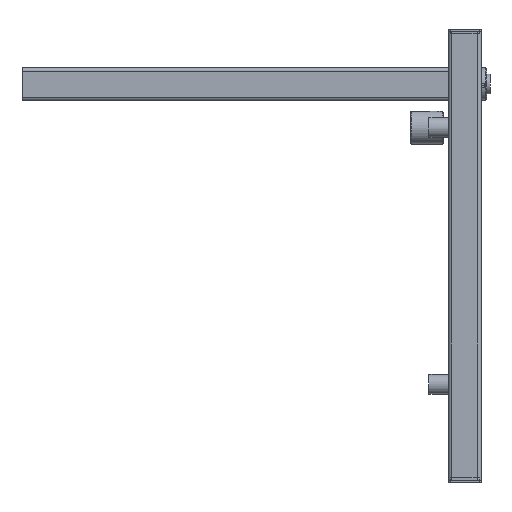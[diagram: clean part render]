
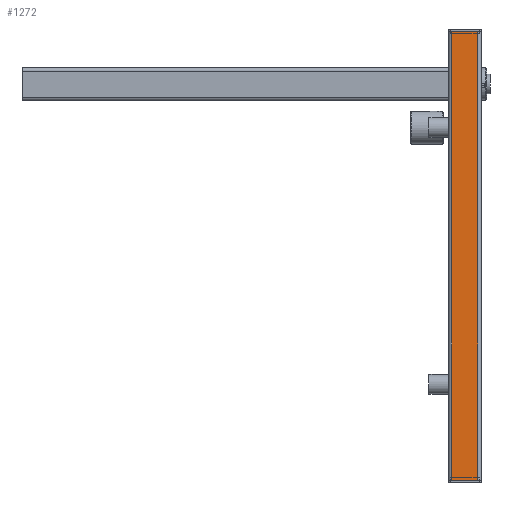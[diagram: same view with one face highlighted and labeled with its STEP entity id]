
A CAD part, left-side view. The second image highlights one B-rep face of the part: STEP entity #1272.
In plain terms, the highlighted planar face has unit normal (-1, 0, 0) as drawn and (0, 0, -1) by its records, which use the part's own axes.
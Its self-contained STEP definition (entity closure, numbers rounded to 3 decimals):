
#1272 = ADVANCED_FACE( '', ( #2558 ), #2559, .T. );
#2558 = FACE_OUTER_BOUND( '', #3865, .T. );
#2559 = PLANE( '', #3866 );
#3865 = EDGE_LOOP( '', ( #7270, #7271, #7272, #7273 ) );
#3866 = AXIS2_PLACEMENT_3D( '', #7274, #7275, #7276 );
#7270 = ORIENTED_EDGE( '', *, *, #7377, .F. );
#7271 = ORIENTED_EDGE( '', *, *, #7997, .T. );
#7272 = ORIENTED_EDGE( '', *, *, #8589, .T. );
#7273 = ORIENTED_EDGE( '', *, *, #7994, .T. );
#7274 = CARTESIAN_POINT( '', ( -15., 411., -15. ) );
#7275 = DIRECTION( '', ( 0., 0., -1. ) );
#7276 = DIRECTION( '', ( -1., 0., 0. ) );
#7377 = EDGE_CURVE( '', #8732, #8734, #8735, .T. );
#7994 = EDGE_CURVE( '', #9768, #8734, #9771, .T. );
#7997 = EDGE_CURVE( '', #8732, #9773, #9776, .F. );
#8589 = EDGE_CURVE( '', #9773, #9768, #10558, .T. );
#8732 = VERTEX_POINT( '', #10721 );
#8734 = VERTEX_POINT( '', #10723 );
#8735 = LINE( '', #10724, #10725 );
#9768 = VERTEX_POINT( '', #12190 );
#9771 = LINE( '', #12194, #12195 );
#9773 = VERTEX_POINT( '', #12197 );
#9776 = LINE( '', #12200, #12201 );
#10558 = LINE( '', #13256, #13257 );
#10721 = CARTESIAN_POINT( '', ( -12., 0., -15. ) );
#10723 = CARTESIAN_POINT( '', ( 12., 0., -15. ) );
#10724 = CARTESIAN_POINT( '', ( -15., 0., -15. ) );
#10725 = VECTOR( '', #13407, 1000. );
#12190 = CARTESIAN_POINT( '', ( 12., 411., -15. ) );
#12194 = CARTESIAN_POINT( '', ( 12., 411., -15. ) );
#12195 = VECTOR( '', #14219, 1000. );
#12197 = CARTESIAN_POINT( '', ( -12., 411., -15. ) );
#12200 = CARTESIAN_POINT( '', ( -12., 411., -15. ) );
#12201 = VECTOR( '', #14223, 1000. );
#13256 = CARTESIAN_POINT( '', ( -15., 411., -15. ) );
#13257 = VECTOR( '', #14902, 1000. );
#13407 = DIRECTION( '', ( 1., 0., 0. ) );
#14219 = DIRECTION( '', ( 0., -1., 0. ) );
#14223 = DIRECTION( '', ( 0., -1., 0. ) );
#14902 = DIRECTION( '', ( 1., 0., 0. ) );
